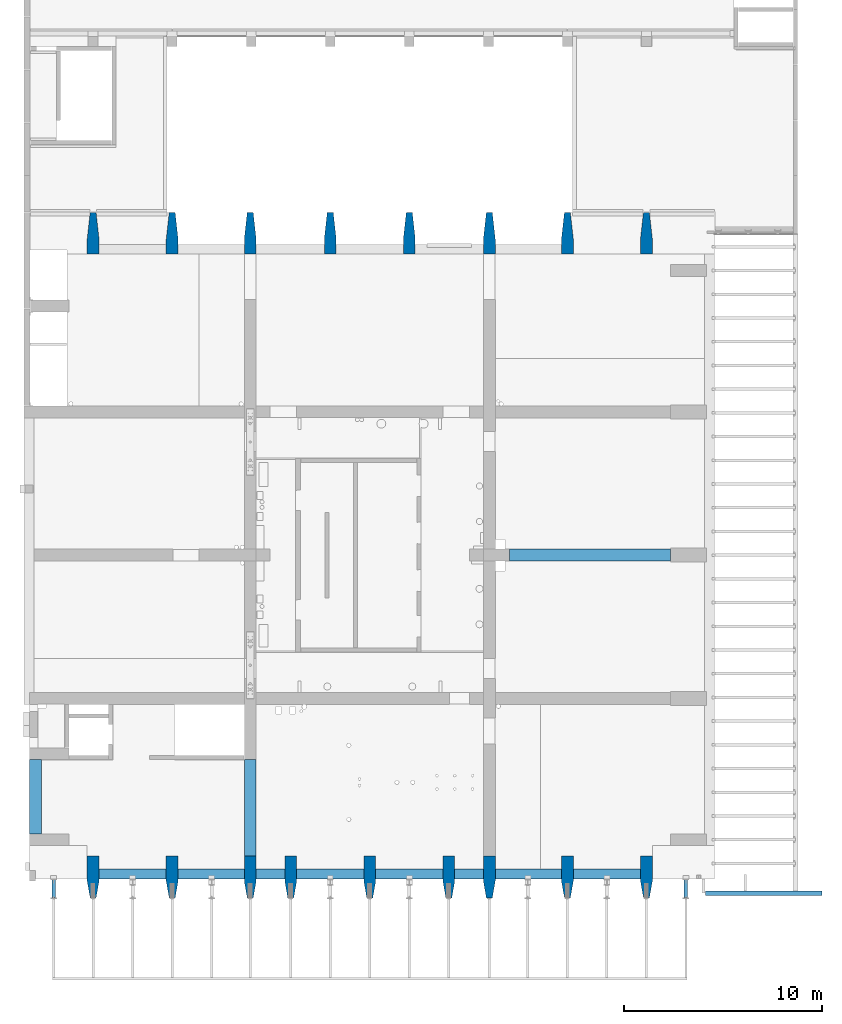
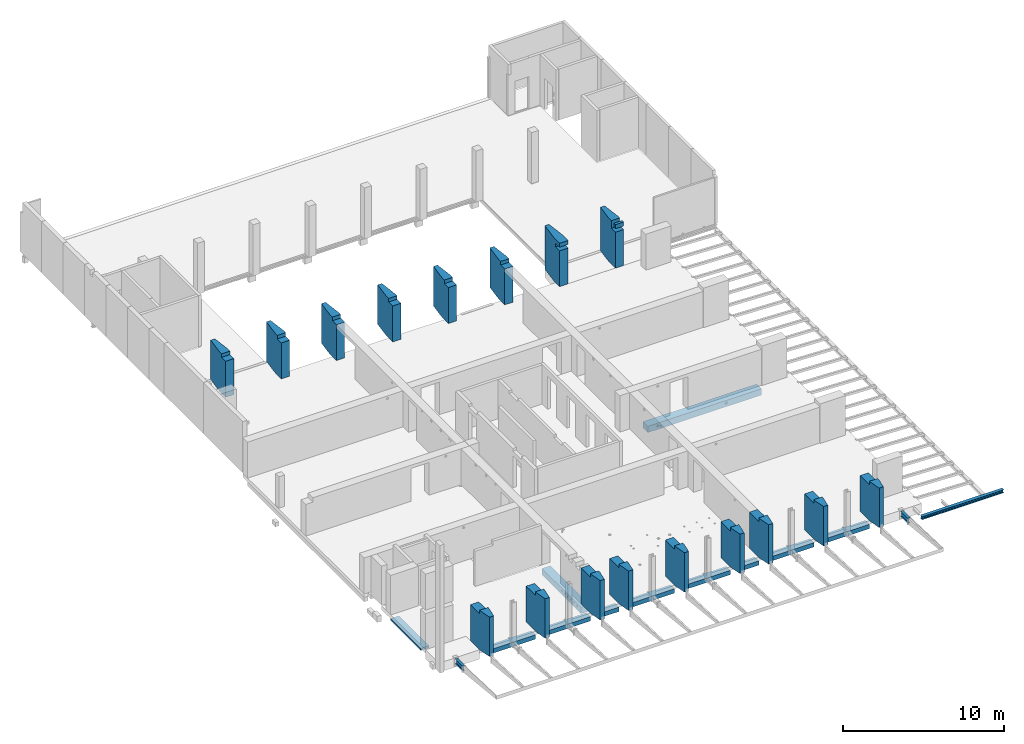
# One storey, part 11 of 27: 17 columns, 7 beams.
"""IFC2X3 building model written with IfcOpenShell, lengths in millimetres."""

from ifc_helpers import new_model, entity, si_unit, converted_unit, derived_unit, direction, frame, frame_2d, origin, origin_2d_with_axis, place, context, subcontext, project, spatial, rectangle, circle, i_section, extrude, boolean, faceted_brep, source, transform, mapped, material, type_object, type_shapes, element, save


model = new_model("IFC2X3")

# Units and contexts
model_context = context("Model", 3, precision=0.01, world=origin(), true_north=direction((6.12303176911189e-17, 1.0)))
body_context = subcontext(model_context, "Body", "Model", "MODEL_VIEW")
ifc_project = project(units=[si_unit("LENGTHUNIT", "METRE", prefix="MILLI"), si_unit("AREAUNIT", "SQUARE_METRE"), si_unit("VOLUMEUNIT", "CUBIC_METRE"), converted_unit("PLANEANGLEUNIT", "DEGREE", entity("IfcRatioMeasure", 0.0174532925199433), si_unit("PLANEANGLEUNIT", "RADIAN"), dimensions=[0, 0, 0, 0, 0, 0, 0]), si_unit("MASSUNIT", "GRAM", prefix="KILO"), derived_unit("MASSDENSITYUNIT", [(si_unit("MASSUNIT", "GRAM", prefix="KILO"), 1), (si_unit("LENGTHUNIT", "METRE"), -3)]), si_unit("TIMEUNIT", "SECOND"), si_unit("FREQUENCYUNIT", "HERTZ"), si_unit("THERMODYNAMICTEMPERATUREUNIT", "DEGREE_CELSIUS"), derived_unit("THERMALTRANSMITTANCEUNIT", [(si_unit("MASSUNIT", "GRAM", prefix="KILO"), 1), (si_unit("THERMODYNAMICTEMPERATUREUNIT", "KELVIN"), -1), (si_unit("TIMEUNIT", "SECOND"), -3)]), derived_unit("VOLUMETRICFLOWRATEUNIT", [(si_unit("LENGTHUNIT", "METRE"), 3), (si_unit("TIMEUNIT", "SECOND"), -1)]), si_unit("ELECTRICCURRENTUNIT", "AMPERE"), si_unit("ELECTRICVOLTAGEUNIT", "VOLT"), si_unit("POWERUNIT", "WATT"), si_unit("FORCEUNIT", "NEWTON", prefix="KILO"), si_unit("ILLUMINANCEUNIT", "LUX"), si_unit("LUMINOUSFLUXUNIT", "LUMEN"), si_unit("LUMINOUSINTENSITYUNIT", "CANDELA"), derived_unit("USERDEFINED", [(si_unit("MASSUNIT", "GRAM", prefix="KILO"), -1), (si_unit("LENGTHUNIT", "METRE"), -2), (si_unit("TIMEUNIT", "SECOND"), 3), (si_unit("LUMINOUSFLUXUNIT", "LUMEN"), 1)]), derived_unit("LINEARVELOCITYUNIT", [(si_unit("LENGTHUNIT", "METRE"), 1), (si_unit("TIMEUNIT", "SECOND"), -1)]), si_unit("PRESSUREUNIT", "PASCAL"), derived_unit("USERDEFINED", [(si_unit("LENGTHUNIT", "METRE"), -2), (si_unit("MASSUNIT", "GRAM", prefix="KILO"), 1), (si_unit("TIMEUNIT", "SECOND"), -2)])], contexts=[model_context])

# Site, building, storey
site_placement = place(None, origin())
site = spatial("IfcSite", under=ifc_project, at=site_placement, Name="Default", CompositionType="ELEMENT")
building_placement = place(site_placement, origin())
building = spatial("IfcBuilding", under=site, at=building_placement, Name="niet gebruiken", CompositionType="ELEMENT")
storey_placement = place(building_placement, frame((0.0, 0.0, 6000.0)))
storey = spatial("IfcBuildingStorey", under=building, at=storey_placement, Name="01 eerste verdieping", CompositionType="ELEMENT", Elevation=6000.0)

# Columns
ifc_material_1 = material(Name="NLRS_f2_beton ihwg")
column_type_1 = type_object("IfcColumnType", Name="600/300x2120/1270", PredefinedType="COLUMN", material=ifc_material_1)
shared_shape_1 = source(origin(), body_context, "Body", "Brep", [
    faceted_brep([(0.0, 850.0, 3000.0), (150.0, 0.0, 3000.0), (450.0, 0.0, 3000.0), (600.0, 850.0, 3000.0), (600.0, 964.0, 3000.0), (0.0, 964.0, 3000.0), (0.0, 2120.0, 0.0), (600.0, 2120.0, 0.0), (600.0, 850.0, 0.0), (450.0, 0.0, 0.0), (150.0, 0.0, 0.0), (0.0, 850.0, 0.0), (0.0, 964.0, 0.0), (0.0, 964.0, 2730.0), (0.0, 2120.0, 2730.0), (600.0, 2120.0, 2730.0), (600.0, 1464.0, 2730.0), (600.0, 964.0, 2730.0)], [[[0, 1, 2, 3, 4, 5]], [[6, 7, 8, 9, 10, 11, 12]], [[6, 12, 11, 0, 5, 13, 14]], [[2, 1, 10, 9]], [[8, 7, 15, 16, 17, 4, 3]], [[7, 6, 14, 15]], [[1, 0, 11, 10]], [[3, 2, 9, 8]], [[13, 17, 16, 15, 14]], [[17, 13, 5, 4]]]),
])
type_shapes(column_type_1, [shared_shape_1])
column_1_placement = place(storey_placement, frame((127450.0, 150.0, -90.0)))
element("IfcColumn", 1, at=column_1_placement, inside=storey, type_object=column_type_1, material=ifc_material_1, Name="NLRS_28.11_SCO_TLB_beton kolom ihwg V vorm_gen:600/300x2120/1270", ObjectType="600/300x2120/1270", context=body_context, shape_type="MappedRepresentation", body=[
    mapped(shared_shape_1, transform((0.0, 0.0, 0.0), scale=1.0)),
])
column_type_2 = type_object("IfcColumnType", Name="600/300x2120/1270", PredefinedType="COLUMN", material=ifc_material_1)
shared_shape_2 = source(origin(), body_context, "Body", "Brep", [
    faceted_brep([(0.0, 850.0, 3000.0), (150.0, 0.0, 3000.0), (450.0, 0.0, 3000.0), (600.0, 850.0, 3000.0), (600.0, 964.0, 3000.0), (0.0, 964.0, 3000.0), (0.0, 2120.0, 0.0), (600.0, 2120.0, 0.0), (600.0, 850.0, 0.0), (450.0, 0.0, 0.0), (150.0, 0.0, 0.0), (0.0, 850.0, 0.0), (0.0, 964.0, 2730.0), (0.0, 1464.0, 2730.0), (0.0, 2120.0, 2730.0), (600.0, 2120.0, 2730.0), (600.0, 1464.0, 2730.0), (600.0, 964.0, 2730.0)], [[[0, 1, 2, 3, 4, 5]], [[6, 7, 8, 9, 10, 11]], [[6, 11, 0, 5, 12, 13, 14]], [[2, 1, 10, 9]], [[8, 7, 15, 16, 17, 4, 3]], [[7, 6, 14, 15]], [[1, 0, 11, 10]], [[3, 2, 9, 8]], [[12, 17, 16, 15, 14, 13]], [[17, 12, 5, 4]]]),
])
type_shapes(column_type_2, [shared_shape_2])
column_2_placement = place(storey_placement, frame((131450.0, 150.0, -90.0)))
element("IfcColumn", 2, at=column_2_placement, inside=storey, type_object=column_type_2, material=ifc_material_1, Name="NLRS_28.11_SCO_TLB_beton kolom ihwg V vorm_gen:600/300x2120/1270", ObjectType="600/300x2120/1270", context=body_context, shape_type="MappedRepresentation", body=[
    mapped(shared_shape_2, transform((0.0, 0.0, 0.0), scale=1.0)),
])
column_type_3 = type_object("IfcColumnType", Name="600/300x2120/1270", PredefinedType="COLUMN", material=ifc_material_1)
shared_shape_3 = source(origin(), body_context, "Body", "Brep", [
    faceted_brep([(0.0, 850.0, 3000.0), (150.0, 0.0, 3000.0), (450.0, 0.0, 3000.0), (600.0, 850.0, 3000.0), (600.0, 964.0, 3000.0), (0.0, 964.0, 3000.0), (0.0, 2120.0, 0.0), (600.0, 2120.0, 0.0), (600.0, 850.0, 0.0), (450.0, 0.0, 0.0), (150.0, 0.0, 0.0), (0.0, 850.0, 0.0), (0.0, 964.0, 2730.0), (0.0, 1464.0, 2730.0), (0.0, 2120.0, 2730.0), (600.0, 2120.0, 2730.0), (600.0, 1464.0, 2730.0), (600.0, 964.0, 2730.0)], [[[0, 1, 2, 3, 4, 5]], [[6, 7, 8, 9, 10, 11]], [[6, 11, 0, 5, 12, 13, 14]], [[2, 1, 10, 9]], [[8, 7, 15, 16, 17, 4, 3]], [[7, 6, 14, 15]], [[1, 0, 11, 10]], [[3, 2, 9, 8]], [[12, 17, 16, 15, 14, 13]], [[17, 12, 5, 4]]]),
])
type_shapes(column_type_3, [shared_shape_3])
column_3_placement = place(storey_placement, frame((135400.0, 150.0, -90.0)))
element("IfcColumn", 3, at=column_3_placement, inside=storey, type_object=column_type_3, material=ifc_material_1, Name="NLRS_28.11_SCO_TLB_beton kolom ihwg V vorm_gen:600/300x2120/1270", ObjectType="600/300x2120/1270", context=body_context, shape_type="MappedRepresentation", body=[
    mapped(shared_shape_3, transform((0.0, 0.0, 0.0), scale=1.0)),
])
column_type_4 = type_object("IfcColumnType", Name="600/300x2120/1270", PredefinedType="COLUMN", material=ifc_material_1)
shared_shape_4 = source(origin(), body_context, "Body", "Brep", [
    faceted_brep([(0.0, 850.0, 3000.0), (150.0, 0.0, 3000.0), (450.0, 0.0, 3000.0), (600.0, 850.0, 3000.0), (600.0, 964.0, 3000.0), (0.0, 964.0, 3000.0), (0.0, 2120.0, 0.0), (600.0, 2120.0, 0.0), (600.0, 850.0, 0.0), (450.0, 0.0, 0.0), (150.0, 0.0, 0.0), (0.0, 850.0, 0.0), (0.0, 964.0, 2730.0), (0.0, 1464.0, 2730.0), (0.0, 2120.0, 2730.0), (600.0, 2120.0, 2730.0), (600.0, 1464.0, 2730.0), (600.0, 964.0, 2730.0)], [[[0, 1, 2, 3, 4, 5]], [[6, 7, 8, 9, 10, 11]], [[6, 11, 0, 5, 12, 13, 14]], [[2, 1, 10, 9]], [[8, 7, 15, 16, 17, 4, 3]], [[7, 6, 14, 15]], [[1, 0, 11, 10]], [[3, 2, 9, 8]], [[12, 17, 16, 15, 14, 13]], [[17, 12, 5, 4]]]),
])
type_shapes(column_type_4, [shared_shape_4])
column_4_placement = place(storey_placement, frame((137450.0, 150.0, -90.0)))
element("IfcColumn", 4, at=column_4_placement, inside=storey, type_object=column_type_4, material=ifc_material_1, Name="NLRS_28.11_SCO_TLB_beton kolom ihwg V vorm_gen:600/300x2120/1270", ObjectType="600/300x2120/1270", context=body_context, shape_type="MappedRepresentation", body=[
    mapped(shared_shape_4, transform((0.0, 0.0, 0.0), scale=1.0)),
])
column_type_5 = type_object("IfcColumnType", Name="600/300x2120/1270", PredefinedType="COLUMN", material=ifc_material_1)
shared_shape_5 = source(origin(), body_context, "Body", "Brep", [
    faceted_brep([(0.0, 850.0, 3000.0), (150.0, 0.0, 3000.0), (450.0, 0.0, 3000.0), (600.0, 850.0, 3000.0), (600.0, 964.0, 3000.0), (0.0, 964.0, 3000.0), (0.0, 2120.0, 0.0), (600.0, 2120.0, 0.0), (600.0, 850.0, 0.0), (450.0, 0.0, 0.0), (150.0, 0.0, 0.0), (0.0, 850.0, 0.0), (0.0, 964.0, 2730.0), (0.0, 1464.0, 2730.0), (0.0, 2120.0, 2730.0), (600.0, 2120.0, 2730.0), (600.0, 1464.0, 2730.0), (600.0, 964.0, 2730.0)], [[[0, 1, 2, 3, 4, 5]], [[6, 7, 8, 9, 10, 11]], [[6, 11, 0, 5, 12, 13, 14]], [[2, 1, 10, 9]], [[8, 7, 15, 16, 17, 4, 3]], [[7, 6, 14, 15]], [[1, 0, 11, 10]], [[3, 2, 9, 8]], [[12, 17, 16, 15, 14, 13]], [[17, 12, 5, 4]]]),
])
type_shapes(column_type_5, [shared_shape_5])
column_5_placement = place(storey_placement, frame((141450.0, 150.0, -90.0)))
element("IfcColumn", 5, at=column_5_placement, inside=storey, type_object=column_type_5, material=ifc_material_1, Name="NLRS_28.11_SCO_TLB_beton kolom ihwg V vorm_gen:600/300x2120/1270", ObjectType="600/300x2120/1270", context=body_context, shape_type="MappedRepresentation", body=[
    mapped(shared_shape_5, transform((0.0, 0.0, 0.0), scale=1.0)),
])
column_type_6 = type_object("IfcColumnType", Name="600/300x2120/1270", PredefinedType="COLUMN", material=ifc_material_1)
shared_shape_6 = source(origin(), body_context, "Body", "Brep", [
    faceted_brep([(0.0, 850.0, 3000.0), (150.0, 0.0, 3000.0), (450.0, 0.0, 3000.0), (600.0, 850.0, 3000.0), (600.0, 964.0, 3000.0), (0.0, 964.0, 3000.0), (0.0, 2120.0, 0.0), (600.0, 2120.0, 0.0), (600.0, 850.0, 0.0), (450.0, 0.0, 0.0), (150.0, 0.0, 0.0), (0.0, 850.0, 0.0), (0.0, 964.0, 2730.0), (0.0, 1464.0, 2730.0), (0.0, 2120.0, 2730.0), (600.0, 2120.0, 2730.0), (600.0, 1464.0, 2730.0), (600.0, 964.0, 2730.0)], [[[0, 1, 2, 3, 4, 5]], [[6, 7, 8, 9, 10, 11]], [[6, 11, 0, 5, 12, 13, 14]], [[2, 1, 10, 9]], [[8, 7, 15, 16, 17, 4, 3]], [[7, 6, 14, 15]], [[1, 0, 11, 10]], [[3, 2, 9, 8]], [[12, 17, 16, 15, 14, 13]], [[17, 12, 5, 4]]]),
])
type_shapes(column_type_6, [shared_shape_6])
column_6_placement = place(storey_placement, frame((145450.0, 150.0, -90.0)))
element("IfcColumn", 6, at=column_6_placement, inside=storey, type_object=column_type_6, material=ifc_material_1, Name="NLRS_28.11_SCO_TLB_beton kolom ihwg V vorm_gen:600/300x2120/1270", ObjectType="600/300x2120/1270", context=body_context, shape_type="MappedRepresentation", body=[
    mapped(shared_shape_6, transform((0.0, 0.0, 0.0), scale=1.0)),
])
column_type_7 = type_object("IfcColumnType", Name="600/300x2120/1270", PredefinedType="COLUMN", material=ifc_material_1)
shared_shape_7 = source(origin(), body_context, "Body", "Brep", [
    faceted_brep([(0.0, 850.0, 3000.0), (150.0, 0.0, 3000.0), (450.0, 0.0, 3000.0), (600.0, 850.0, 3000.0), (600.0, 964.0, 3000.0), (0.0, 964.0, 3000.0), (0.0, 2120.0, 0.0), (600.0, 2120.0, 0.0), (600.0, 850.0, 0.0), (450.0, 0.0, 0.0), (150.0, 0.0, 0.0), (0.0, 850.0, 0.0), (0.0, 964.0, 2730.0), (0.0, 2120.0, 2730.0), (600.0, 2120.0, 2730.0), (600.0, 964.0, 2730.0)], [[[0, 1, 2, 3, 4, 5]], [[6, 7, 8, 9, 10, 11]], [[6, 11, 0, 5, 12, 13]], [[2, 1, 10, 9]], [[8, 7, 14, 15, 4, 3]], [[7, 6, 13, 14]], [[1, 0, 11, 10]], [[3, 2, 9, 8]], [[12, 15, 14, 13]], [[15, 12, 5, 4]]]),
])
type_shapes(column_type_7, [shared_shape_7])
column_7_placement = place(storey_placement, frame((147500.0, 150.0, -90.0)))
element("IfcColumn", 7, at=column_7_placement, inside=storey, type_object=column_type_7, material=ifc_material_1, Name="NLRS_28.11_SCO_TLB_beton kolom ihwg V vorm_gen:600/300x2120/1270", ObjectType="600/300x2120/1270", context=body_context, shape_type="MappedRepresentation", body=[
    mapped(shared_shape_7, transform((0.0, 0.0, 0.0), scale=1.0)),
])
column_type_8 = type_object("IfcColumnType", Name="600/300x2120/1270", PredefinedType="COLUMN", material=ifc_material_1)
shared_shape_8 = source(origin(), body_context, "Body", "Brep", [
    faceted_brep([(0.0, 850.0, 3000.0), (150.0, 0.0, 3000.0), (450.0, 0.0, 3000.0), (600.0, 850.0, 3000.0), (600.0, 964.0, 3000.0), (0.0, 964.0, 3000.0), (0.0, 2120.0, 0.0), (600.0, 2120.0, 0.0), (600.0, 850.0, 0.0), (450.0, 0.0, 0.0), (150.0, 0.0, 0.0), (0.0, 850.0, 0.0), (0.0, 964.0, 2730.0), (0.0, 1464.0, 2730.0), (0.0, 2120.0, 2730.0), (600.0, 2120.0, 2730.0), (600.0, 1464.0, 2730.0), (600.0, 964.0, 2730.0)], [[[0, 1, 2, 3, 4, 5]], [[6, 7, 8, 9, 10, 11]], [[6, 11, 0, 5, 12, 13, 14]], [[2, 1, 10, 9]], [[8, 7, 15, 16, 17, 4, 3]], [[7, 6, 14, 15]], [[1, 0, 11, 10]], [[3, 2, 9, 8]], [[12, 17, 16, 15, 14, 13]], [[17, 12, 5, 4]]]),
])
type_shapes(column_type_8, [shared_shape_8])
column_8_placement = place(storey_placement, frame((151450.0, 150.0, -90.0)))
element("IfcColumn", 8, at=column_8_placement, inside=storey, type_object=column_type_8, material=ifc_material_1, Name="NLRS_28.11_SCO_TLB_beton kolom ihwg V vorm_gen:600/300x2120/1270", ObjectType="600/300x2120/1270", context=body_context, shape_type="MappedRepresentation", body=[
    mapped(shared_shape_8, transform((0.0, 0.0, 0.0), scale=1.0)),
])
column_type_9 = type_object("IfcColumnType", Name="600/300x2120/1270", PredefinedType="COLUMN", material=ifc_material_1)
shared_shape_9 = source(origin(), body_context, "Body", "Brep", [
    faceted_brep([(0.0, 850.0, 3000.0), (150.0, 0.0, 3000.0), (450.0, 0.0, 3000.0), (600.0, 850.0, 3000.0), (600.0, 964.0, 3000.0), (0.0, 964.0, 3000.0), (0.0, 2120.0, 0.0), (600.0, 2120.0, 0.0), (600.0, 964.0, 0.0), (600.0, 850.0, 0.0), (450.0, 0.0, 0.0), (150.0, 0.0, 0.0), (0.0, 850.0, 0.0), (0.0, 964.0, 2730.0), (0.0, 1464.0, 2730.0), (0.0, 2120.0, 2730.0), (600.0, 2120.0, 2730.0), (600.0, 1464.0, 2730.0), (600.0, 964.0, 2730.0)], [[[0, 1, 2, 3, 4, 5]], [[6, 7, 8, 9, 10, 11, 12]], [[6, 12, 0, 5, 13, 14, 15]], [[2, 1, 11, 10]], [[9, 8, 7, 16, 17, 18, 4, 3]], [[7, 6, 15, 16]], [[1, 0, 12, 11]], [[3, 2, 10, 9]], [[13, 18, 17, 16, 15, 14]], [[18, 13, 5, 4]]]),
])
type_shapes(column_type_9, [shared_shape_9])
column_9_placement = place(storey_placement, frame((155450.0, 150.0, -90.0)))
element("IfcColumn", 9, at=column_9_placement, inside=storey, type_object=column_type_9, material=ifc_material_1, Name="NLRS_28.11_SCO_TLB_beton kolom ihwg V vorm_gen:600/300x2120/1270", ObjectType="600/300x2120/1270", context=body_context, shape_type="MappedRepresentation", body=[
    mapped(shared_shape_9, transform((0.0, 0.0, 0.0), scale=1.0)),
])
column_type_10 = type_object("IfcColumnType", Name="600/300x2120/770", PredefinedType="COLUMN", material=ifc_material_1)
shared_shape_10 = source(origin(), body_context, "Body", "SolidModel", [
    extrude(rectangle(XDim=199.999999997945, YDim=600.000000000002, at=origin_2d_with_axis()), frame((155750.0, 32830.0, 8910.0), z_axis=(0.0, 0.0, 1.0), x_axis=(0.0, 1.0, 0.0)), (0.0, 0.0, 1.0), 300.000000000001),
    faceted_brep([(156050.0, 32730.0, 5910.0), (155450.0, 32730.0, 5910.0), (155450.0, 33500.0, 5910.0), (155600.0, 34850.0, 5910.0), (155900.0, 34850.0, 5910.0), (156050.0, 33500.0, 5910.0), (155600.0, 34850.0, 9210.0), (155900.0, 34850.0, 9210.0), (156050.0, 33500.0, 9210.0), (155450.0, 33500.0, 9210.0), (156050.0, 32730.0, 8640.0), (156050.0, 33230.0, 8640.0), (155450.0, 33230.0, 8640.0), (155450.0, 32730.0, 8640.0), (156050.0, 33230.0, 9210.0), (155450.0, 33230.0, 9210.0)], [[[0, 1, 2, 3, 4, 5]], [[6, 7, 4, 3]], [[7, 8, 5, 4]], [[9, 6, 3, 2]], [[10, 11, 12, 13]], [[12, 11, 14, 15]], [[1, 0, 10, 13]], [[8, 7, 6, 9, 15, 14]], [[0, 5, 8, 14, 11, 10]], [[2, 1, 13, 12, 15, 9]]]),
])
type_shapes(column_type_10, [shared_shape_10])
column_10_placement = place(storey_placement, frame((0.0, 0.0, -6000.0)))
element("IfcColumn", 10, at=column_10_placement, inside=storey, type_object=column_type_10, material=ifc_material_1, Name="NLRS_28.11_SCO_TLB_beton kolom ihwg V vorm_gen:600/300x2120/770", ObjectType="600/300x2120/770", context=body_context, shape_type="MappedRepresentation", body=[
    mapped(shared_shape_10, transform((0.0, 0.0, 0.0), scale=1.0)),
])
column_type_11 = type_object("IfcColumnType", Name="600/300x2120/770", PredefinedType="COLUMN", material=ifc_material_1)
shared_shape_11 = source(origin(), body_context, "Body", "Brep", [
    faceted_brep([(600.0, 0.0, 3300.0), (600.0, 200.0, 3300.0), (600.0, 500.0, 3300.0), (600.0, 770.0, 3300.0), (450.0, 2120.0, 3300.0), (150.0, 2120.0, 3300.0), (0.0, 770.0, 3300.0), (0.0, 200.0, 3300.0), (0.0, 0.0, 3300.0), (600.0, 0.0, 0.0), (0.0, 0.0, 0.0), (0.0, 20.0, 0.0), (0.0, 770.0, 0.0), (150.0, 2120.0, 0.0), (450.0, 2120.0, 0.0), (600.0, 770.0, 0.0), (600.0, 0.0, 3000.0), (600.0, 200.0, 3000.0), (600.0, 500.0, 3000.0), (600.0, 500.0, 2730.0), (600.0, 0.0, 2730.0), (0.0, 0.0, 2730.0), (0.0, 500.0, 2730.0), (0.0, 500.0, 3000.0), (0.0, 200.0, 3000.0), (0.0, 0.0, 3000.0)], [[[0, 1, 2, 3, 4, 5, 6, 7, 8]], [[9, 10, 11, 12, 13, 14, 15]], [[3, 2, 1, 0, 16, 17, 18, 19, 20, 9, 15]], [[5, 4, 14, 13]], [[8, 7, 6, 12, 11, 10, 21, 22, 23, 24, 25]], [[0, 8, 25, 16]], [[4, 3, 15, 14]], [[6, 5, 13, 12]], [[19, 22, 21, 20]], [[23, 18, 17, 16, 25, 24]], [[22, 19, 18, 23]], [[10, 9, 20, 21]]]),
])
type_shapes(column_type_11, [shared_shape_11])
column_11_placement = place(storey_placement, frame((151450.0, 32730.0, -90.0)))
element("IfcColumn", 11, at=column_11_placement, inside=storey, type_object=column_type_11, material=ifc_material_1, Name="NLRS_28.11_SCO_TLB_beton kolom ihwg V vorm_gen:600/300x2120/770", ObjectType="600/300x2120/770", context=body_context, shape_type="MappedRepresentation", body=[
    mapped(shared_shape_11, transform((0.0, 0.0, 0.0), scale=1.0)),
])
column_type_12 = type_object("IfcColumnType", Name="600/300x2120/770", PredefinedType="COLUMN", material=ifc_material_1)
shared_shape_12 = source(origin(), body_context, "Body", "Brep", [
    faceted_brep([(600.0, 770.0, 3000.0), (450.0, 2120.0, 3000.0), (150.0, 2120.0, 3000.0), (0.0, 770.0, 3000.0), (0.0, 500.0, 3000.0), (600.0, 500.0, 3000.0), (600.0, 0.0, 0.0), (0.0, 0.0, 0.0), (0.0, 770.0, 0.0), (150.0, 2120.0, 0.0), (450.0, 2120.0, 0.0), (600.0, 770.0, 0.0), (600.0, 500.0, 2730.0), (600.0, 0.0, 2730.0), (0.0, 0.0, 2730.0), (0.0, 500.0, 2730.0)], [[[0, 1, 2, 3, 4, 5]], [[6, 7, 8, 9, 10, 11]], [[6, 11, 0, 5, 12, 13]], [[2, 1, 10, 9]], [[8, 7, 14, 15, 4, 3]], [[7, 6, 13, 14]], [[1, 0, 11, 10]], [[3, 2, 9, 8]], [[12, 15, 14, 13]], [[15, 12, 5, 4]]]),
])
type_shapes(column_type_12, [shared_shape_12])
column_12_placement = place(storey_placement, frame((147500.0, 32730.0, -90.0)))
element("IfcColumn", 12, at=column_12_placement, inside=storey, type_object=column_type_12, material=ifc_material_1, Name="NLRS_28.11_SCO_TLB_beton kolom ihwg V vorm_gen:600/300x2120/770", ObjectType="600/300x2120/770", context=body_context, shape_type="MappedRepresentation", body=[
    mapped(shared_shape_12, transform((0.0, 0.0, 0.0), scale=1.0)),
])
column_type_13 = type_object("IfcColumnType", Name="600/300x2120/770", PredefinedType="COLUMN", material=ifc_material_1)
shared_shape_13 = source(origin(), body_context, "Body", "Brep", [
    faceted_brep([(600.0, 770.0, 3000.0), (450.0, 2120.0, 3000.0), (150.0, 2120.0, 3000.0), (0.0, 770.0, 3000.0), (0.0, 500.0, 3000.0), (600.0, 500.0, 3000.0), (600.0, 0.0, 0.0), (0.0, 0.0, 0.0), (0.0, 770.0, 0.0), (150.0, 2120.0, 0.0), (450.0, 2120.0, 0.0), (600.0, 770.0, 0.0), (600.0, 500.0, 2730.0), (600.0, 0.0, 2730.0), (0.0, 0.0, 2730.0), (0.0, 500.0, 2730.0)], [[[0, 1, 2, 3, 4, 5]], [[6, 7, 8, 9, 10, 11]], [[6, 11, 0, 5, 12, 13]], [[2, 1, 10, 9]], [[8, 7, 14, 15, 4, 3]], [[7, 6, 13, 14]], [[1, 0, 11, 10]], [[3, 2, 9, 8]], [[12, 15, 14, 13]], [[15, 12, 5, 4]]]),
])
type_shapes(column_type_13, [shared_shape_13])
column_13_placement = place(storey_placement, frame((143450.0, 32730.0, -90.0)))
element("IfcColumn", 13, at=column_13_placement, inside=storey, type_object=column_type_13, material=ifc_material_1, Name="NLRS_28.11_SCO_TLB_beton kolom ihwg V vorm_gen:600/300x2120/770", ObjectType="600/300x2120/770", context=body_context, shape_type="MappedRepresentation", body=[
    mapped(shared_shape_13, transform((0.0, 0.0, 0.0), scale=1.0)),
])
column_type_14 = type_object("IfcColumnType", Name="600/300x2120/770", PredefinedType="COLUMN", material=ifc_material_1)
shared_shape_14 = source(origin(), body_context, "Body", "Brep", [
    faceted_brep([(600.0, 770.0, 3000.0), (450.0, 2120.0, 3000.0), (150.0, 2120.0, 3000.0), (0.0, 770.0, 3000.0), (0.0, 500.0, 3000.0), (600.0, 500.0, 3000.0), (600.0, 0.0, 0.0), (0.0, 0.0, 0.0), (0.0, 770.0, 0.0), (150.0, 2120.0, 0.0), (450.0, 2120.0, 0.0), (600.0, 770.0, 0.0), (600.0, 500.0, 2730.0), (600.0, 0.0, 2730.0), (0.0, 0.0, 2730.0), (0.0, 500.0, 2730.0)], [[[0, 1, 2, 3, 4, 5]], [[6, 7, 8, 9, 10, 11]], [[6, 11, 0, 5, 12, 13]], [[2, 1, 10, 9]], [[8, 7, 14, 15, 4, 3]], [[7, 6, 13, 14]], [[1, 0, 11, 10]], [[3, 2, 9, 8]], [[12, 15, 14, 13]], [[15, 12, 5, 4]]]),
])
type_shapes(column_type_14, [shared_shape_14])
column_14_placement = place(storey_placement, frame((139450.0, 32730.0, -90.0)))
element("IfcColumn", 14, at=column_14_placement, inside=storey, type_object=column_type_14, material=ifc_material_1, Name="NLRS_28.11_SCO_TLB_beton kolom ihwg V vorm_gen:600/300x2120/770", ObjectType="600/300x2120/770", context=body_context, shape_type="MappedRepresentation", body=[
    mapped(shared_shape_14, transform((0.0, 0.0, 0.0), scale=1.0)),
])
column_type_15 = type_object("IfcColumnType", Name="600/300x2120/770", PredefinedType="COLUMN", material=ifc_material_1)
shared_shape_15 = source(origin(), body_context, "Body", "Brep", [
    faceted_brep([(600.0, 770.0, 3000.0), (450.0, 2120.0, 3000.0), (150.0, 2120.0, 3000.0), (0.0, 770.0, 3000.0), (0.0, 500.0, 3000.0), (600.0, 500.0, 3000.0), (600.0, 0.0, 0.0), (0.0, 0.0, 0.0), (0.0, 770.0, 0.0), (150.0, 2120.0, 0.0), (450.0, 2120.0, 0.0), (600.0, 770.0, 0.0), (600.0, 500.0, 2730.0), (600.0, 0.0, 2730.0), (600.0, 0.0, 2490.0), (0.0, 0.0, 2490.0), (0.0, 0.0, 2730.0), (0.0, 500.0, 2730.0)], [[[0, 1, 2, 3, 4, 5]], [[6, 7, 8, 9, 10, 11]], [[6, 11, 0, 5, 12, 13, 14]], [[2, 1, 10, 9]], [[8, 7, 15, 16, 17, 4, 3]], [[7, 6, 14, 13, 16, 15]], [[1, 0, 11, 10]], [[3, 2, 9, 8]], [[12, 17, 16, 13]], [[17, 12, 5, 4]]]),
])
type_shapes(column_type_15, [shared_shape_15])
column_15_placement = place(storey_placement, frame((135400.0, 32730.0, -90.0)))
element("IfcColumn", 15, at=column_15_placement, inside=storey, type_object=column_type_15, material=ifc_material_1, Name="NLRS_28.11_SCO_TLB_beton kolom ihwg V vorm_gen:600/300x2120/770", ObjectType="600/300x2120/770", context=body_context, shape_type="MappedRepresentation", body=[
    mapped(shared_shape_15, transform((0.0, 0.0, 0.0), scale=1.0)),
])
column_type_16 = type_object("IfcColumnType", Name="600/300x2120/770", PredefinedType="COLUMN", material=ifc_material_1)
shared_shape_16 = source(origin(), body_context, "Body", "Brep", [
    faceted_brep([(600.0, 770.0, 3000.0), (450.0, 2120.0, 3000.0), (150.0, 2120.0, 3000.0), (0.0, 770.0, 3000.0), (0.0, 500.0, 3000.0), (600.0, 500.0, 3000.0), (600.0, 0.0, 0.0), (0.0, 0.0, 0.0), (0.0, 770.0, 0.0), (150.0, 2120.0, 0.0), (450.0, 2120.0, 0.0), (600.0, 770.0, 0.0), (600.0, 500.0, 0.0), (600.0, 500.0, 2730.0), (600.0, 0.0, 2730.0), (0.0, 0.0, 2730.0), (0.0, 500.0, 2730.0)], [[[0, 1, 2, 3, 4, 5]], [[6, 7, 8, 9, 10, 11, 12]], [[6, 12, 11, 0, 5, 13, 14]], [[2, 1, 10, 9]], [[8, 7, 15, 16, 4, 3]], [[7, 6, 14, 15]], [[1, 0, 11, 10]], [[3, 2, 9, 8]], [[13, 16, 15, 14]], [[16, 13, 5, 4]]]),
])
type_shapes(column_type_16, [shared_shape_16])
column_16_placement = place(storey_placement, frame((131450.0, 32730.0, -90.0)))
element("IfcColumn", 16, at=column_16_placement, inside=storey, type_object=column_type_16, material=ifc_material_1, Name="NLRS_28.11_SCO_TLB_beton kolom ihwg V vorm_gen:600/300x2120/770", ObjectType="600/300x2120/770", context=body_context, shape_type="MappedRepresentation", body=[
    mapped(shared_shape_16, transform((0.0, 0.0, 0.0), scale=1.0)),
])
column_type_17 = type_object("IfcColumnType", Name="600/300x2120/770", PredefinedType="COLUMN", material=ifc_material_1)
shared_shape_17 = source(origin(), body_context, "Body", "Brep", [
    faceted_brep([(600.0, 770.0, 3000.0), (450.0, 2120.0, 3000.0), (150.0, 2120.0, 3000.0), (0.0, 770.0, 3000.0), (0.0, 500.0, 3000.0), (600.0, 500.0, 3000.0), (600.0, 0.0, 0.0), (0.0, 0.0, 0.0), (0.0, 770.0, 0.0), (150.0, 2120.0, 0.0), (450.0, 2120.0, 0.0), (600.0, 770.0, 0.0), (600.0, 500.0, 2730.0), (600.0, 0.0, 2730.0), (0.0, 0.0, 2730.0), (0.0, 500.0, 2730.0)], [[[0, 1, 2, 3, 4, 5]], [[6, 7, 8, 9, 10, 11]], [[6, 11, 0, 5, 12, 13]], [[2, 1, 10, 9]], [[8, 7, 14, 15, 4, 3]], [[7, 6, 13, 14]], [[1, 0, 11, 10]], [[3, 2, 9, 8]], [[12, 15, 14, 13]], [[15, 12, 5, 4]]]),
])
type_shapes(column_type_17, [shared_shape_17])
column_17_placement = place(storey_placement, frame((127450.0, 32730.0, -90.0)))
element("IfcColumn", 17, at=column_17_placement, inside=storey, type_object=column_type_17, material=ifc_material_1, Name="NLRS_28.11_SCO_TLB_beton kolom ihwg V vorm_gen:600/300x2120/770", ObjectType="600/300x2120/770", context=body_context, shape_type="MappedRepresentation", body=[
    mapped(shared_shape_17, transform((0.0, 0.0, 0.0), scale=1.0)),
])

# Beams
beam_type_1 = type_object("IfcBeamType", Name="500x600", PredefinedType="BEAM", material=ifc_material_1)
shared_shape_18 = source(origin(), body_context, "Body", "SweptSolid", [
    extrude(rectangle(XDim=3400.00000000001, YDim=500.0, at=frame_2d((-8.64019966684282e-12, 1.98951966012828e-13), x_axis=(1.0, 0.0))), frame((153750.0, 1364.0, 5310.0), z_axis=(0.0, 0.0, 1.0), x_axis=(-1.0, 0.0, 0.0)), (0.0, 0.0, 1.0), 329.999999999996),
    extrude(rectangle(XDim=1450.0, YDim=500.0, at=frame_2d((-8.69704308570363e-12, 5.6843418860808e-14), x_axis=(1.0, 0.0))), frame((136725.0, 1364.0, 5310.0), z_axis=(0.0, 0.0, 1.0), x_axis=(-1.0, 0.0, 0.0)), (0.0, 0.0, 1.0), 329.999999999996),
    extrude(rectangle(XDim=3399.99999999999, YDim=500.0, at=frame_2d((0.0, -1.98951966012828e-13), x_axis=(1.0, 0.0))), frame((139750.0, 1364.0, 5310.0)), (0.0, 0.0, 1.0), 329.999999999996),
    extrude(rectangle(XDim=3400.00000000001, YDim=500.0, at=frame_2d((8.64019966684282e-12, -1.98951966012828e-13), x_axis=(1.0, 0.0))), frame((143750.0, 1364.0, 5310.0)), (0.0, 0.0, 1.0), 329.999999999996),
    extrude(rectangle(XDim=1449.99999999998, YDim=500.0, at=frame_2d((0.0, 1.98951966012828e-13), x_axis=(1.0, 0.0))), frame((146775.0, 1364.0, 5310.0)), (0.0, 0.0, 1.0), 329.999999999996),
    extrude(rectangle(XDim=3350.0, YDim=500.0, at=frame_2d((0.0, 1.27897692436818e-13), x_axis=(1.0, 0.0))), frame((133725.0, 1364.0, 5310.0), z_axis=(0.0, 0.0, 1.0), x_axis=(-1.0, 0.0, 0.0)), (0.0, 0.0, 1.0), 329.999999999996),
    extrude(rectangle(XDim=3400.00000000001, YDim=500.0, at=frame_2d((8.64019966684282e-12, 0.0), x_axis=(1.0, 0.0))), frame((129750.0, 1364.0, 5310.0), z_axis=(0.0, 0.0, 1.0), x_axis=(-1.0, 0.0, 0.0)), (0.0, 0.0, 1.0), 329.999999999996),
    extrude(rectangle(XDim=3350.0, YDim=500.0, at=frame_2d((1.72803993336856e-11, -1.27897692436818e-13), x_axis=(1.0, 0.0))), frame((149775.0, 1364.0, 5310.0)), (0.0, 0.0, 1.0), 329.999999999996),
])
type_shapes(beam_type_1, [shared_shape_18])
beam_1_placement = place(storey_placement, frame((0.0, 0.0, -6000.0)))
element("IfcBeam", 18, at=beam_1_placement, inside=storey, type_object=beam_type_1, material=ifc_material_1, Name="NLRS_28.11_SF_WPB_betonbalk ihwg recht_gen:500x600", ObjectType="500x600", context=body_context, shape_type="MappedRepresentation", body=[
    mapped(shared_shape_18, transform((0.0, 0.0, 0.0), scale=1.0)),
])
beam_type_2 = type_object("IfcBeamType", Name="NLRS_28.11_SF_WPB_betonbalk ihwg recht_gen:600x750", PredefinedType="BEAM")
beam_2_placement = place(storey_placement, frame((148814.0, 17500.0, -90.0)))
element("IfcBeam", 19, at=beam_2_placement, inside=storey, type_object=beam_type_2, material=ifc_material_1, Name="NLRS_28.11_SF_WPB_betonbalk ihwg recht_gen:600x750", ObjectType="NLRS_28.11_SF_WPB_betonbalk ihwg recht_gen:600x750", context=body_context, shape_type="CSG", body=[
    boolean("DIFFERENCE", boolean("DIFFERENCE", extrude(rectangle(XDim=479.999999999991, YDim=600.0, at=frame_2d((9.74864633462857e-12, 0.0), x_axis=(0.0, 1.0))), frame((0.0, 0.0, -510.0), z_axis=(1.0, 0.0, 0.0), x_axis=(0.0, 1.0, 0.0)), (0.0, 0.0, 1.0), 8165.99999999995), extrude(circle(Radius=80.0, at=origin_2d_with_axis()), frame((716.0, -300.0, -470.0), z_axis=(0.0, 1.0, 0.0), x_axis=(1.0, 0.0, 0.0)), (0.0, 0.0, 1.0), 600.0)), extrude(circle(Radius=80.0, at=origin_2d_with_axis()), frame((5636.0, -300.0, -470.0), z_axis=(0.0, 1.0, 0.0), x_axis=(1.0, 0.0, 0.0)), (0.0, 0.0, 1.0), 600.0)),
])
beam_3_placement = place(storey_placement, frame((135700.0, 7150.0, -90.0), z_axis=(0.0, 0.0, 1.0), x_axis=(0.0, -1.0, 0.0)))
element("IfcBeam", 20, at=beam_3_placement, inside=storey, type_object=beam_type_2, material=ifc_material_1, Name="NLRS_28.11_SF_WPB_betonbalk ihwg recht_gen:600x750", ObjectType="NLRS_28.11_SF_WPB_betonbalk ihwg recht_gen:600x750", context=body_context, shape_type="CSG", body=[
    boolean("DIFFERENCE", boolean("DIFFERENCE", boolean("DIFFERENCE", boolean("DIFFERENCE", boolean("DIFFERENCE", boolean("DIFFERENCE", extrude(rectangle(XDim=479.999999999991, YDim=600.000000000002, at=frame_2d((0.0, 0.0), x_axis=(0.0, 1.0))), frame((0.0, 0.0, -510.0), z_axis=(1.0, 0.0, 0.0), x_axis=(0.0, 1.0, 0.0)), (0.0, 0.0, 1.0), 4880.00000000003), extrude(circle(Radius=62.5, at=origin_2d_with_axis()), frame((3960.0, 300.0, -465.0), z_axis=(0.0, -1.0, 0.0), x_axis=(1.0, 0.0, 0.0)), (0.0, 0.0, 1.0), 600.000000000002)), extrude(circle(Radius=62.5, at=origin_2d_with_axis()), frame((2860.0, 300.0, -455.0), z_axis=(0.0, -1.0, 0.0), x_axis=(1.0, 0.0, 0.0)), (0.0, 0.0, 1.0), 600.000000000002)), extrude(circle(Radius=62.5, at=origin_2d_with_axis()), frame((2520.0, 300.0, -455.0), z_axis=(0.0, -1.0, 0.0), x_axis=(1.0, 0.0, 0.0)), (0.0, 0.0, 1.0), 600.000000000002)), extrude(circle(Radius=62.5, at=origin_2d_with_axis()), frame((3540.0, 300.0, -455.0), z_axis=(0.0, -1.0, 0.0), x_axis=(1.0, 0.0, 0.0)), (0.0, 0.0, 1.0), 600.000000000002)), extrude(circle(Radius=62.5, at=origin_2d_with_axis()), frame((3200.0, 300.0, -455.0), z_axis=(0.0, -1.0, 0.0), x_axis=(1.0, 0.0, 0.0)), (0.0, 0.0, 1.0), 600.000000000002)), extrude(circle(Radius=62.5, at=origin_2d_with_axis()), frame((4380.0, 300.0, -465.0), z_axis=(0.0, -1.0, 0.0), x_axis=(1.0, 0.0, 0.0)), (0.0, 0.0, 1.0), 600.000000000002)),
])
ifc_material_2 = material(Name="NLRS_h2_staal")
beam_type_3 = type_object("IfcBeamType", Name="NLRS_28.11_SF_WPB_stalen ligger HEA_gen:ligger HEA 240", PredefinedType="BEAM")
beam_4_placement = place(storey_placement, frame((164630.0, 390.0, -445.0), z_axis=(0.0, 0.0, 1.0), x_axis=(-1.0, 0.0, 0.0)))
element("IfcBeam", 21, at=beam_4_placement, inside=storey, type_object=beam_type_3, material=ifc_material_2, Name="NLRS_28.11_SF_WPB_stalen ligger HEA_gen:ligger HEA 240", ObjectType="NLRS_28.11_SF_WPB_stalen ligger HEA_gen:ligger HEA 240", context=body_context, shape_type="SweptSolid", body=[
    extrude(i_section(OverallWidth=240.00000000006, OverallDepth=230.000000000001, WebThickness=7.49999999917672, FlangeThickness=11.9999999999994, FilletRadius=20.9999999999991, at=frame_2d((-5.47117906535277e-13, 0.0), x_axis=(0.0, 1.0))), frame((0.0, 0.0, -115.0), z_axis=(1.0, 0.0, 0.0), x_axis=(0.0, 0.0, -1.0)), (0.0, 0.0, 1.0), 5880.00000000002),
])
beam_type_4 = type_object("IfcBeamType", Name="NLRS_28.11_SF_WPB_betonbalk ihwg recht_gen:600x420", PredefinedType="BEAM")
beam_5_placement = place(storey_placement, frame((124830.0, 7150.0, -90.0), z_axis=(0.0, 0.0, 1.0), x_axis=(0.0, -1.0, 0.0)))
element("IfcBeam", 22, at=beam_5_placement, inside=storey, type_object=beam_type_4, material=ifc_material_1, Name="NLRS_28.11_SF_WPB_betonbalk ihwg recht_gen:600x420", ObjectType="NLRS_28.11_SF_WPB_betonbalk ihwg recht_gen:600x420", context=body_context, shape_type="SweptSolid", body=[
    extrude(rectangle(XDim=149.999999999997, YDim=600.000000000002, at=frame_2d((5.40012479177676e-13, 0.0), x_axis=(1.0, 0.0))), frame((0.0, 0.0, -345.0), z_axis=(1.0, 0.0, 0.0), x_axis=(0.0, 0.0, -1.0)), (0.0, 0.0, 1.0), 3750.0),
])
beam_type_5 = type_object("IfcBeamType", Name="NLRS_28.11_SF_WPB_stalen ligger IPE_gen:ligger IPE 400", PredefinedType="BEAM")
beam_6_placement = place(storey_placement, frame((125750.0, 1074.0, -120.0), z_axis=(0.0, 0.0, 1.0), x_axis=(0.0, -1.0, 0.0)))
element("IfcBeam", 23, at=beam_6_placement, inside=storey, type_object=beam_type_5, material=ifc_material_2, Name="NLRS_28.11_SF_WPB_stalen ligger IPE_gen:ligger IPE 400", ObjectType="NLRS_28.11_SF_WPB_stalen ligger IPE_gen:ligger IPE 400", context=body_context, shape_type="SweptSolid", body=[
    extrude(i_section(OverallWidth=179.999999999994, OverallDepth=400.0, WebThickness=8.60000000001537, FlangeThickness=13.4999999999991, FilletRadius=20.9999999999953, at=frame_2d((-1.09423581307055e-12, -1.73301373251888e-11), x_axis=(0.0, 1.0))), frame((0.0, 0.0, -200.0), z_axis=(1.0, 0.0, 0.0), x_axis=(0.0, 0.0, -1.0)), (0.0, 0.0, 1.0), 909.0),
])
beam_7_placement = place(storey_placement, frame((157750.0, 1074.0, -120.0), z_axis=(0.0, 0.0, 1.0), x_axis=(0.0, -1.0, 0.0)))
element("IfcBeam", 24, at=beam_7_placement, inside=storey, type_object=beam_type_5, material=ifc_material_2, Name="NLRS_28.11_SF_WPB_stalen ligger IPE_gen:ligger IPE 400", ObjectType="NLRS_28.11_SF_WPB_stalen ligger IPE_gen:ligger IPE 400", context=body_context, shape_type="SweptSolid", body=[
    extrude(i_section(OverallWidth=180.000000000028, OverallDepth=400.0, WebThickness=8.59999999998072, FlangeThickness=13.4999999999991, FilletRadius=21.0000000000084, at=frame_2d((0.0, 3.46531692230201e-11), x_axis=(0.0, 1.0))), frame((0.0, 0.0, -200.0), z_axis=(1.0, 0.0, 0.0), x_axis=(0.0, 0.0, -1.0)), (0.0, 0.0, 1.0), 909.0),
])

save(model, "model.ifc")
